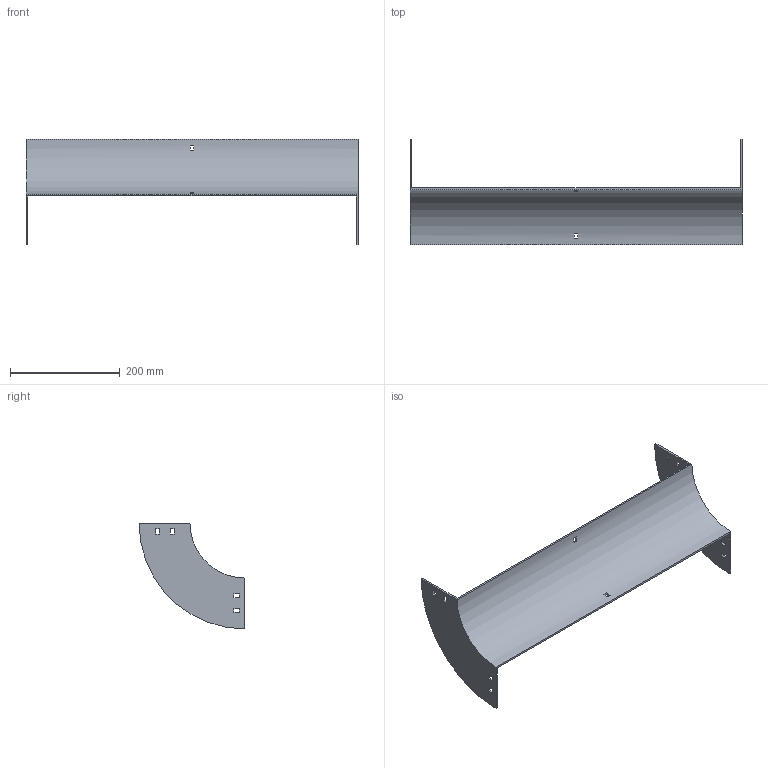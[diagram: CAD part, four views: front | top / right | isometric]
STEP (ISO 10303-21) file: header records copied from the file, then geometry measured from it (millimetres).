
FILE_DESCRIPTION (( 'STEP AP214' ), '1' );
FILE_NAME ('33B1I600.step', '2025-02-21T09:33:19', ( '' ), ( '' ), 'SwSTEP 2.0', 'SolidWorks 2023', '' );
FILE_SCHEMA (( 'AUTOMOTIVE_DESIGN' ));
Length unit declared in the file: millimetre
Products named in the file (1): 33B1I600
Bounding box: 604 x 192.5 x 192.5 mm (x, y, z)
Volume: 480336.1 mm3; surface area: 283221.2 mm2
Topology: 1 solids, 1 shells, 50 faces, 144 edges, 96 vertices
Faces by surface type: plane 46, cylinder 4
Entity records: 1687 total; most frequent: CARTESIAN_POINT 291, ORIENTED_EDGE 288, DIRECTION 262, EDGE_CURVE 144, VECTOR 128, LINE 128, VERTEX_POINT 96, EDGE_LOOP 70
